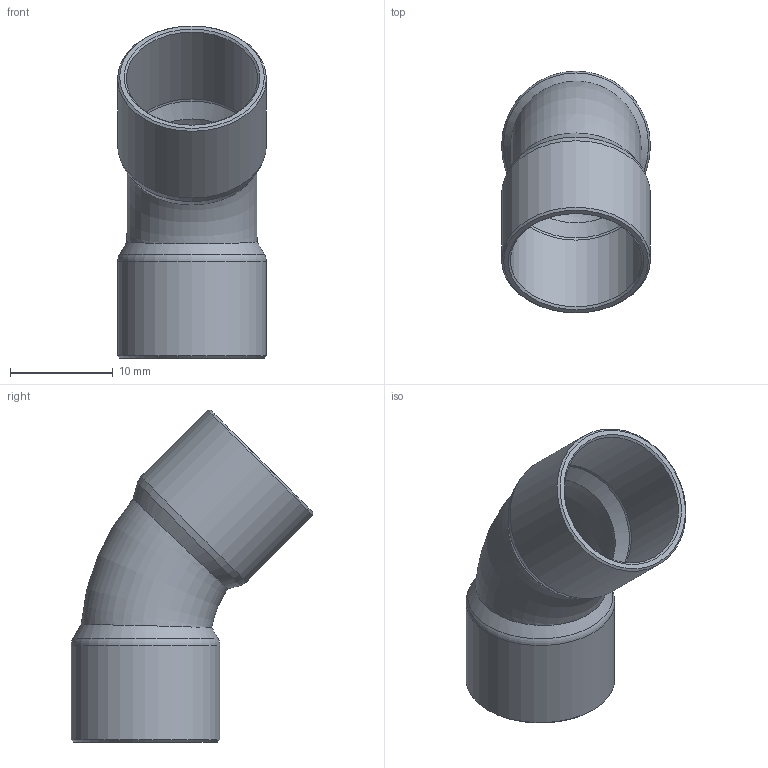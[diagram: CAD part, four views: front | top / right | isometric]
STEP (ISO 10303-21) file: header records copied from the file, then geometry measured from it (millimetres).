
FILE_DESCRIPTION((''),'2;1');
FILE_NAME('G:\SANHA-Ternat\Technik\Management\Bouwmaten + markeringen\z-maattekeningen 3D\29000s\2904112_3d.stp','2017-07-26T11:18:14',('vdvijverd'),(''),'Autodesk Inventor 2009','Autodesk Inventor 2009','');
FILE_SCHEMA(('AUTOMOTIVE_DESIGN { 1 0 10303 214 1 1 1 1 }'));
Length unit declared in the file: millimetre
Products named in the file (1): 2904112_3d
Bounding box: 14.52 x 23.59 x 32.37 mm (x, y, z)
Volume: 1107.5 mm3; surface area: 2666.7 mm2
Topology: 1 solids, 1 shells, 20 faces, 38 edges, 20 vertices
Faces by surface type: bspline 8, cone 6, torus 3, cylinder 2, plane 1
Full cylindrical faces by diameter (mm): 12.82 x1, 14.52 x1
Entity records: 808 total; most frequent: CARTESIAN_POINT 478, DIRECTION 58, ORIENTED_EDGE 40, EDGE_LOOP 40, AXIS2_PLACEMENT_3D 29, VERTEX_POINT 20, EDGE_CURVE 20, FACE_OUTER_BOUND 20
